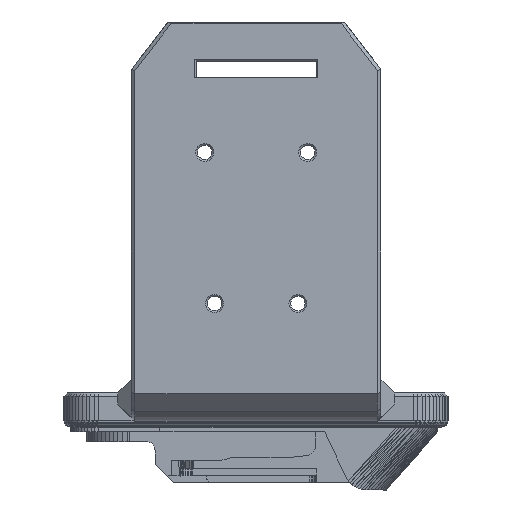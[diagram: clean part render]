
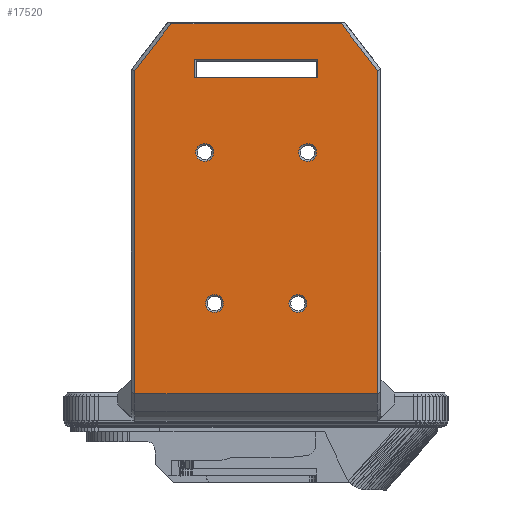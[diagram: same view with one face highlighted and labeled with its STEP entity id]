
A CAD part, left-side view. The second image highlights one B-rep face of the part: STEP entity #17520.
In plain terms, the highlighted planar face has unit normal (-1, 0, 0) as drawn and (0, 0, -1) by its records, which use the part's own axes.
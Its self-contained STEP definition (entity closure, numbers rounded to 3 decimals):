
#39=FACE_BOUND('',#2489,.T.);
#40=FACE_BOUND('',#2490,.T.);
#41=FACE_BOUND('',#2491,.T.);
#42=FACE_BOUND('',#2492,.T.);
#43=FACE_BOUND('',#2493,.T.);
#48=PLANE('',#18775);
#1253=FACE_OUTER_BOUND('',#2488,.T.);
#2488=EDGE_LOOP('',(#12487,#12488,#12489,#12490,#12491,#12492));
#2489=EDGE_LOOP('',(#12493));
#2490=EDGE_LOOP('',(#12494));
#2491=EDGE_LOOP('',(#12495));
#2492=EDGE_LOOP('',(#12496,#12497,#12498,#12499));
#2493=EDGE_LOOP('',(#12500));
#3732=LINE('',#25088,#6193);
#3733=LINE('',#25090,#6194);
#3734=LINE('',#25092,#6195);
#3735=LINE('',#25094,#6196);
#3736=LINE('',#25096,#6197);
#3737=LINE('',#25097,#6198);
#3738=LINE('',#25106,#6199);
#3739=LINE('',#25108,#6200);
#3740=LINE('',#25110,#6201);
#3741=LINE('',#25111,#6202);
#6193=VECTOR('',#20065,10.);
#6194=VECTOR('',#20066,10.);
#6195=VECTOR('',#20067,10.);
#6196=VECTOR('',#20068,10.);
#6197=VECTOR('',#20069,10.);
#6198=VECTOR('',#20070,10.);
#6199=VECTOR('',#20077,10.);
#6200=VECTOR('',#20078,10.);
#6201=VECTOR('',#20079,10.);
#6202=VECTOR('',#20080,10.);
#8653=CIRCLE('',#18773,2.6);
#8655=CIRCLE('',#18776,2.6);
#8656=CIRCLE('',#18777,2.6);
#8657=CIRCLE('',#18778,2.6);
#8695=VERTEX_POINT('',#25080);
#8697=VERTEX_POINT('',#25086);
#8698=VERTEX_POINT('',#25087);
#8699=VERTEX_POINT('',#25089);
#8700=VERTEX_POINT('',#25091);
#8701=VERTEX_POINT('',#25093);
#8702=VERTEX_POINT('',#25095);
#8703=VERTEX_POINT('',#25098);
#8704=VERTEX_POINT('',#25100);
#8705=VERTEX_POINT('',#25102);
#8706=VERTEX_POINT('',#25104);
#8707=VERTEX_POINT('',#25105);
#8708=VERTEX_POINT('',#25107);
#8709=VERTEX_POINT('',#25109);
#9974=EDGE_CURVE('',#8695,#8695,#8653,.T.);
#9977=EDGE_CURVE('',#8697,#8698,#3732,.T.);
#9978=EDGE_CURVE('',#8699,#8697,#3733,.T.);
#9979=EDGE_CURVE('',#8700,#8699,#3734,.T.);
#9980=EDGE_CURVE('',#8701,#8700,#3735,.T.);
#9981=EDGE_CURVE('',#8702,#8701,#3736,.T.);
#9982=EDGE_CURVE('',#8698,#8702,#3737,.T.);
#9983=EDGE_CURVE('',#8703,#8703,#8655,.T.);
#9984=EDGE_CURVE('',#8704,#8704,#8656,.T.);
#9985=EDGE_CURVE('',#8705,#8705,#8657,.T.);
#9986=EDGE_CURVE('',#8706,#8707,#3738,.T.);
#9987=EDGE_CURVE('',#8708,#8706,#3739,.T.);
#9988=EDGE_CURVE('',#8709,#8708,#3740,.T.);
#9989=EDGE_CURVE('',#8707,#8709,#3741,.T.);
#12487=ORIENTED_EDGE('',*,*,#9977,.F.);
#12488=ORIENTED_EDGE('',*,*,#9978,.F.);
#12489=ORIENTED_EDGE('',*,*,#9979,.F.);
#12490=ORIENTED_EDGE('',*,*,#9980,.F.);
#12491=ORIENTED_EDGE('',*,*,#9981,.F.);
#12492=ORIENTED_EDGE('',*,*,#9982,.F.);
#12493=ORIENTED_EDGE('',*,*,#9983,.F.);
#12494=ORIENTED_EDGE('',*,*,#9984,.F.);
#12495=ORIENTED_EDGE('',*,*,#9985,.F.);
#12496=ORIENTED_EDGE('',*,*,#9986,.F.);
#12497=ORIENTED_EDGE('',*,*,#9987,.F.);
#12498=ORIENTED_EDGE('',*,*,#9988,.F.);
#12499=ORIENTED_EDGE('',*,*,#9989,.F.);
#12500=ORIENTED_EDGE('',*,*,#9974,.F.);
#17520=ADVANCED_FACE('',(#1253,#39,#40,#41,#42,#43),#48,.T.);
#18773=AXIS2_PLACEMENT_3D('',#25081,#20058,#20059);
#18775=AXIS2_PLACEMENT_3D('',#25085,#20063,#20064);
#18776=AXIS2_PLACEMENT_3D('',#25099,#20071,#20072);
#18777=AXIS2_PLACEMENT_3D('',#25101,#20073,#20074);
#18778=AXIS2_PLACEMENT_3D('',#25103,#20075,#20076);
#20058=DIRECTION('center_axis',(0.,0.,-1.));
#20059=DIRECTION('ref_axis',(0.,-1.,0.));
#20063=DIRECTION('center_axis',(0.,0.,-1.));
#20064=DIRECTION('ref_axis',(-1.,0.,0.));
#20065=DIRECTION('',(1.,0.,0.));
#20066=DIRECTION('',(0.,-1.,0.));
#20067=DIRECTION('',(-1.,0.,0.));
#20068=DIRECTION('',(-0.793,0.609,0.));
#20069=DIRECTION('',(0.,1.,0.));
#20070=DIRECTION('',(0.793,0.609,0.));
#20071=DIRECTION('center_axis',(0.,0.,-1.));
#20072=DIRECTION('ref_axis',(0.,-1.,0.));
#20073=DIRECTION('center_axis',(0.,0.,-1.));
#20074=DIRECTION('ref_axis',(-1.,0.,0.));
#20075=DIRECTION('center_axis',(0.,0.,-1.));
#20076=DIRECTION('ref_axis',(-1.,0.,0.));
#20077=DIRECTION('',(1.,0.,0.));
#20078=DIRECTION('',(0.,1.,0.));
#20079=DIRECTION('',(-1.,0.,0.));
#20080=DIRECTION('',(0.,-1.,0.));
#25080=CARTESIAN_POINT('',(-34.031,-9.542,-7.));
#25081=CARTESIAN_POINT('Origin',(-34.031,-12.142,-7.));
#25085=CARTESIAN_POINT('Origin',(-0.925,0.,
-7.));
#25086=CARTESIAN_POINT('',(-60.35,-35.35,-7.));
#25087=CARTESIAN_POINT('',(33.832,-35.35,-7.));
#25088=CARTESIAN_POINT('',(-25.638,-35.35,-7.));
#25089=CARTESIAN_POINT('',(-60.35,35.35,-7.));
#25090=CARTESIAN_POINT('',(-60.35,0.,-7.));
#25091=CARTESIAN_POINT('',(33.832,35.35,-7.));
#25092=CARTESIAN_POINT('',(-25.638,35.35,-7.));
#25093=CARTESIAN_POINT('',(47.5,24.857,-7.));
#25094=CARTESIAN_POINT('',(38.464,31.793,-7.));
#25095=CARTESIAN_POINT('',(47.5,-24.857,-7.));
#25096=CARTESIAN_POINT('',(47.5,7.975,-7.));
#25097=CARTESIAN_POINT('',(31.3,-37.293,-7.));
#25098=CARTESIAN_POINT('',(-34.031,14.742,-7.));
#25099=CARTESIAN_POINT('Origin',(-34.031,12.142,-7.));
#25100=CARTESIAN_POINT('',(12.6,15.,-7.));
#25101=CARTESIAN_POINT('Origin',(10.,15.,-7.));
#25102=CARTESIAN_POINT('',(12.6,-15.,-7.));
#25103=CARTESIAN_POINT('Origin',(10.,-15.,-7.));
#25104=CARTESIAN_POINT('',(31.711,18.,-7.));
#25105=CARTESIAN_POINT('',(37.15,18.,-7.));
#25106=CARTESIAN_POINT('',(11.263,18.,-7.));
#25107=CARTESIAN_POINT('',(31.711,-18.,-7.));
#25108=CARTESIAN_POINT('',(31.711,-4.25,-7.));
#25109=CARTESIAN_POINT('',(37.15,-18.,-7.));
#25110=CARTESIAN_POINT('',(17.763,-18.,-7.));
#25111=CARTESIAN_POINT('',(37.15,8.5,-7.));
